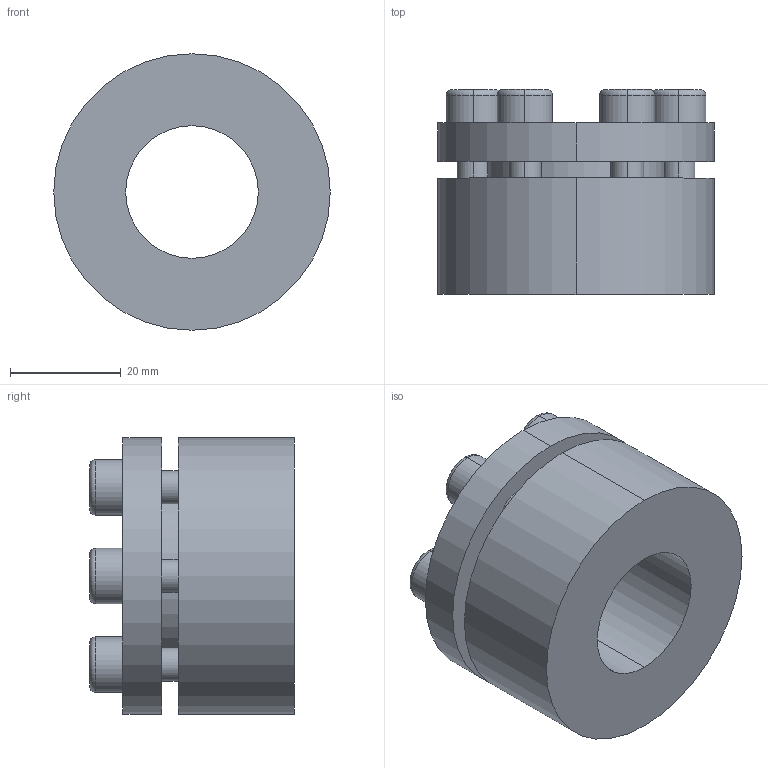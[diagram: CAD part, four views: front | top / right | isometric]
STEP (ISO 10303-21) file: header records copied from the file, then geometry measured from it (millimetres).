
FILE_DESCRIPTION (( 'STEP AP203' ), '1' );
FILE_NAME ('PL-H1 24-50.STEP', '2021-10-23T00:53:09', ( '' ), ( '' ), 'SwSTEP 2.0', 'SolidWorks 2018', '' );
FILE_SCHEMA (( 'CONFIG_CONTROL_DESIGN' ));
Length unit declared in the file: millimetre
Products named in the file (1): PL-H1 24-50
Bounding box: 50 x 37 x 50 mm (x, y, z)
Volume: 46255.8 mm3; surface area: 13635.8 mm2
Topology: 1 solids, 1 shells, 101 faces, 243 edges, 158 vertices
Faces by surface type: plane 52, cylinder 37, torus 12
Entity records: 3040 total; most frequent: DIRECTION 545, CARTESIAN_POINT 503, ORIENTED_EDGE 486, EDGE_CURVE 243, AXIS2_PLACEMENT_3D 200, VERTEX_POINT 158, VECTOR 145, LINE 145
